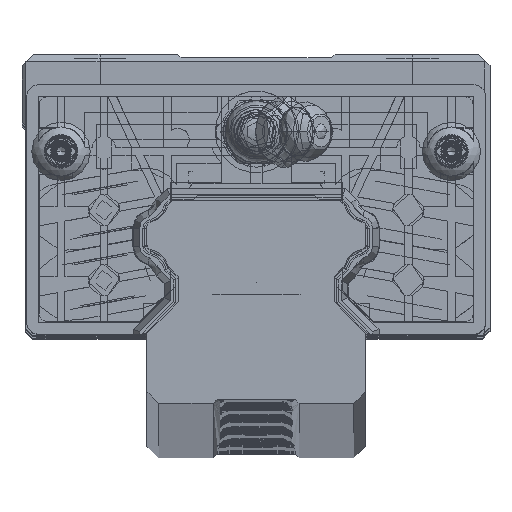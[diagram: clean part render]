
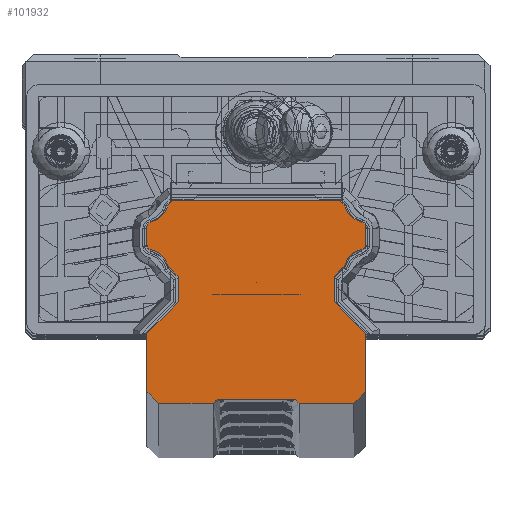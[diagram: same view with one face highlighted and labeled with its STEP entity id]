
A CAD part, top view. The second image highlights one B-rep face of the part: STEP entity #101932.
In plain terms, the highlighted planar face has unit normal (0, 0, 1).
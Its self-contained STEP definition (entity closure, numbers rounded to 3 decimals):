
#92562=DIRECTION('',(0.707,0.707,0.));
#92563=VECTOR('',#92562,0.707);
#92564=CARTESIAN_POINT('',(-5.5,-21.5,500.));
#92565=LINE('',#92564,#92563);
#92633=DIRECTION('',(-1.,0.,0.));
#92634=VECTOR('',#92633,21.4);
#92635=CARTESIAN_POINT('',(10.7,4.5,500.));
#92636=LINE('',#92635,#92634);
#93137=DIRECTION('',(-0.707,-0.707,0.));
#93138=VECTOR('',#93137,0.79);
#93139=CARTESIAN_POINT('',(-10.7,4.5,500.));
#93140=LINE('',#93139,#93138);
#93922=CARTESIAN_POINT('',(5.,-21.,500.));
#93924=DIRECTION('',(0.707,-0.707,0.));
#93925=VECTOR('',#93924,0.707);
#93926=CARTESIAN_POINT('',(5.,-21.,500.));
#93927=LINE('',#93926,#93925);
#95998=DIRECTION('',(1.,0.,0.));
#95999=VECTOR('',#95998,10.);
#96000=CARTESIAN_POINT('',(-5.,-21.,500.));
#96001=LINE('',#96000,#95999);
#96068=CARTESIAN_POINT('',(-14.086,-4.586,500.));
#96069=DIRECTION('',(0.,0.,1.));
#96070=DIRECTION('',(0.976,0.216,0.));
#96071=AXIS2_PLACEMENT_3D('',#96068,#96069,#96070);
#96073=CARTESIAN_POINT('',(-13.4,-1.154,500.));
#96074=DIRECTION('',(0.,0.,-1.));
#96075=DIRECTION('',(-0.196,-0.981,0.));
#96076=AXIS2_PLACEMENT_3D('',#96073,#96074,#96075);
#96078=DIRECTION('',(0.,1.,0.));
#96079=VECTOR('',#96078,2.308);
#96080=CARTESIAN_POINT('',(-14.,-1.154,500.));
#96081=LINE('',#96080,#96079);
#96082=CARTESIAN_POINT('',(-13.4,1.154,500.));
#96083=DIRECTION('',(0.,0.,-1.));
#96084=DIRECTION('',(-1.,0.,0.));
#96085=AXIS2_PLACEMENT_3D('',#96082,#96083,#96084);
#96087=CARTESIAN_POINT('',(-14.086,4.586,500.));
#96088=DIRECTION('',(0.,0.,1.));
#96089=DIRECTION('',(0.196,-0.981,0.));
#96090=AXIS2_PLACEMENT_3D('',#96087,#96088,#96089);
#96092=CARTESIAN_POINT('',(14.086,4.586,500.));
#96093=DIRECTION('',(0.,0.,1.));
#96094=DIRECTION('',(-0.975,-0.222,0.));
#96095=AXIS2_PLACEMENT_3D('',#96092,#96093,#96094);
#96097=CARTESIAN_POINT('',(13.4,1.154,500.));
#96098=DIRECTION('',(0.,0.,-1.));
#96099=DIRECTION('',(0.196,0.981,0.));
#96100=AXIS2_PLACEMENT_3D('',#96097,#96098,#96099);
#96102=DIRECTION('',(0.,-1.,0.));
#96103=VECTOR('',#96102,2.308);
#96104=CARTESIAN_POINT('',(14.,1.154,500.));
#96105=LINE('',#96104,#96103);
#96106=CARTESIAN_POINT('',(13.4,-1.154,500.));
#96107=DIRECTION('',(0.,0.,-1.));
#96108=DIRECTION('',(1.,0.,0.));
#96109=AXIS2_PLACEMENT_3D('',#96106,#96107,#96108);
#96111=CARTESIAN_POINT('',(14.086,-4.586,500.));
#96112=DIRECTION('',(0.,0.,1.));
#96113=DIRECTION('',(-0.196,0.981,0.));
#96114=AXIS2_PLACEMENT_3D('',#96111,#96112,#96113);
#96116=DIRECTION('',(-0.707,-0.707,0.));
#96117=VECTOR('',#96116,1.774);
#96118=CARTESIAN_POINT('',(11.254,-3.961,500.));
#96119=LINE('',#96118,#96117);
#96120=DIRECTION('',(0.,-1.,0.));
#96121=VECTOR('',#96120,3.285);
#96122=CARTESIAN_POINT('',(10.,-5.215,500.));
#96123=LINE('',#96122,#96121);
#96124=DIRECTION('',(0.707,-0.707,0.));
#96125=VECTOR('',#96124,5.657);
#96126=CARTESIAN_POINT('',(10.,-8.5,500.));
#96127=LINE('',#96126,#96125);
#96128=DIRECTION('',(0.,-1.,0.));
#96129=VECTOR('',#96128,7.5);
#96130=CARTESIAN_POINT('',(14.,-12.5,500.));
#96131=LINE('',#96130,#96129);
#96132=DIRECTION('',(-0.707,-0.707,0.));
#96133=VECTOR('',#96132,2.121);
#96134=CARTESIAN_POINT('',(14.,-20.,500.));
#96135=LINE('',#96134,#96133);
#96136=DIRECTION('',(-1.,0.,0.));
#96137=VECTOR('',#96136,7.);
#96138=CARTESIAN_POINT('',(12.5,-21.5,500.));
#96139=LINE('',#96138,#96137);
#96140=DIRECTION('',(-1.,0.,0.));
#96141=VECTOR('',#96140,7.);
#96142=CARTESIAN_POINT('',(-5.5,-21.5,500.));
#96143=LINE('',#96142,#96141);
#96144=DIRECTION('',(-0.707,0.707,0.));
#96145=VECTOR('',#96144,2.121);
#96146=CARTESIAN_POINT('',(-12.5,-21.5,500.));
#96147=LINE('',#96146,#96145);
#96148=DIRECTION('',(0.,1.,0.));
#96149=VECTOR('',#96148,7.5);
#96150=CARTESIAN_POINT('',(-14.,-20.,500.));
#96151=LINE('',#96150,#96149);
#96152=DIRECTION('',(0.707,0.707,0.));
#96153=VECTOR('',#96152,5.657);
#96154=CARTESIAN_POINT('',(-14.,-12.5,500.));
#96155=LINE('',#96154,#96153);
#96156=DIRECTION('',(0.,1.,0.));
#96157=VECTOR('',#96156,3.285);
#96158=CARTESIAN_POINT('',(-10.,-8.5,500.));
#96159=LINE('',#96158,#96157);
#96160=DIRECTION('',(-0.707,0.707,0.));
#96161=VECTOR('',#96160,1.774);
#96162=CARTESIAN_POINT('',(-10.,-5.215,500.));
#96163=LINE('',#96162,#96161);
#96164=DIRECTION('',(-0.707,0.707,0.));
#96165=VECTOR('',#96164,0.79);
#96166=CARTESIAN_POINT('',(11.259,3.941,500.));
#96167=LINE('',#96166,#96165);
#96532=CARTESIAN_POINT('',(-11.254,-3.961,500.));
#96534=VERTEX_POINT('',#96532);
#96538=CARTESIAN_POINT('',(-13.518,-1.742,500.));
#96539=VERTEX_POINT('',#96538);
#96541=CARTESIAN_POINT('',(-10.,-5.215,500.));
#96543=VERTEX_POINT('',#96541);
#96545=CARTESIAN_POINT('',(-10.,-8.5,500.));
#96547=VERTEX_POINT('',#96545);
#96549=CARTESIAN_POINT('',(-14.,-12.5,500.));
#96551=VERTEX_POINT('',#96549);
#96553=CARTESIAN_POINT('',(-14.,-20.,500.));
#96555=VERTEX_POINT('',#96553);
#96557=CARTESIAN_POINT('',(-12.5,-21.5,500.));
#96559=VERTEX_POINT('',#96557);
#96561=CARTESIAN_POINT('',(-5.5,-21.5,500.));
#96563=VERTEX_POINT('',#96561);
#96581=CARTESIAN_POINT('',(-5.,-21.,500.));
#96582=VERTEX_POINT('',#96581);
#96701=VERTEX_POINT('',#93922);
#96738=CARTESIAN_POINT('',(-10.7,4.5,500.));
#96740=VERTEX_POINT('',#96738);
#96744=CARTESIAN_POINT('',(10.7,4.5,500.));
#96745=VERTEX_POINT('',#96744);
#97047=CARTESIAN_POINT('',(-11.259,3.941,500.));
#97049=VERTEX_POINT('',#97047);
#97051=CARTESIAN_POINT('',(-13.518,1.742,500.));
#97053=VERTEX_POINT('',#97051);
#97054=CARTESIAN_POINT('',(-14.,1.154,500.));
#97056=VERTEX_POINT('',#97054);
#97059=CARTESIAN_POINT('',(-14.,-1.154,500.));
#97061=VERTEX_POINT('',#97059);
#97086=CARTESIAN_POINT('',(5.5,-21.5,500.));
#97087=VERTEX_POINT('',#97086);
#97088=CARTESIAN_POINT('',(11.259,3.941,500.));
#97089=VERTEX_POINT('',#97088);
#97090=CARTESIAN_POINT('',(13.518,1.742,500.));
#97091=VERTEX_POINT('',#97090);
#97092=CARTESIAN_POINT('',(14.,1.154,500.));
#97093=VERTEX_POINT('',#97092);
#97094=CARTESIAN_POINT('',(14.,-1.154,500.));
#97095=VERTEX_POINT('',#97094);
#97096=CARTESIAN_POINT('',(13.518,-1.742,500.));
#97097=VERTEX_POINT('',#97096);
#97098=CARTESIAN_POINT('',(11.254,-3.961,500.));
#97099=VERTEX_POINT('',#97098);
#97100=CARTESIAN_POINT('',(10.,-5.215,500.));
#97101=VERTEX_POINT('',#97100);
#97102=CARTESIAN_POINT('',(10.,-8.5,500.));
#97103=VERTEX_POINT('',#97102);
#97104=CARTESIAN_POINT('',(14.,-12.5,500.));
#97105=VERTEX_POINT('',#97104);
#97106=CARTESIAN_POINT('',(14.,-20.,500.));
#97107=VERTEX_POINT('',#97106);
#97108=CARTESIAN_POINT('',(12.5,-21.5,500.));
#97109=VERTEX_POINT('',#97108);
#101885=CARTESIAN_POINT('',(0.,0.,500.));
#101886=DIRECTION('',(0.,0.,1.));
#101887=DIRECTION('',(1.,0.,0.));
#101888=AXIS2_PLACEMENT_3D('',#101885,#101886,#101887);
#101889=PLANE('',#101888);
#101890=ORIENTED_EDGE('',*,*,#97409,.T.);
#101891=ORIENTED_EDGE('',*,*,#98075,.T.);
#101892=ORIENTED_EDGE('',*,*,#98061,.T.);
#101893=ORIENTED_EDGE('',*,*,#98046,.T.);
#101894=ORIENTED_EDGE('',*,*,#98031,.T.);
#101895=ORIENTED_EDGE('',*,*,#98016,.F.);
#101896=ORIENTED_EDGE('',*,*,#97703,.F.);
#101898=ORIENTED_EDGE('',*,*,#101897,.F.);
#101900=ORIENTED_EDGE('',*,*,#101899,.T.);
#101902=ORIENTED_EDGE('',*,*,#101901,.T.);
#101904=ORIENTED_EDGE('',*,*,#101903,.T.);
#101906=ORIENTED_EDGE('',*,*,#101905,.T.);
#101908=ORIENTED_EDGE('',*,*,#101907,.T.);
#101910=ORIENTED_EDGE('',*,*,#101909,.T.);
#101912=ORIENTED_EDGE('',*,*,#101911,.T.);
#101914=ORIENTED_EDGE('',*,*,#101913,.T.);
#101916=ORIENTED_EDGE('',*,*,#101915,.T.);
#101918=ORIENTED_EDGE('',*,*,#101917,.T.);
#101920=ORIENTED_EDGE('',*,*,#101919,.T.);
#101921=ORIENTED_EDGE('',*,*,#98979,.F.);
#101922=ORIENTED_EDGE('',*,*,#101804,.F.);
#101923=ORIENTED_EDGE('',*,*,#97532,.F.);
#101924=ORIENTED_EDGE('',*,*,#97499,.T.);
#101925=ORIENTED_EDGE('',*,*,#97484,.T.);
#101926=ORIENTED_EDGE('',*,*,#97469,.T.);
#101927=ORIENTED_EDGE('',*,*,#97454,.T.);
#101928=ORIENTED_EDGE('',*,*,#97439,.T.);
#101929=ORIENTED_EDGE('',*,*,#97424,.T.);
#101930=EDGE_LOOP('',(#101890,#101891,#101892,#101893,#101894,#101895,#101896,
#101898,#101900,#101902,#101904,#101906,#101908,#101910,#101912,#101914,#101916,
#101918,#101920,#101921,#101922,#101923,#101924,#101925,#101926,#101927,#101928,
#101929));
#101931=FACE_OUTER_BOUND('',#101930,.F.);
#101932=ADVANCED_FACE('',(#101931),#101889,.T.);
#96072=CIRCLE('',#96071,2.9);
#96077=CIRCLE('',#96076,0.6);
#96086=CIRCLE('',#96085,0.6);
#96091=CIRCLE('',#96090,2.9);
#96096=CIRCLE('',#96095,2.9);
#96101=CIRCLE('',#96100,0.6);
#96110=CIRCLE('',#96109,0.6);
#96115=CIRCLE('',#96114,2.9);
#97409=EDGE_CURVE('',#96534,#96539,#96072,.T.);
#97424=EDGE_CURVE('',#96543,#96534,#96163,.T.);
#97439=EDGE_CURVE('',#96547,#96543,#96159,.T.);
#97454=EDGE_CURVE('',#96551,#96547,#96155,.T.);
#97469=EDGE_CURVE('',#96555,#96551,#96151,.T.);
#97484=EDGE_CURVE('',#96559,#96555,#96147,.T.);
#97499=EDGE_CURVE('',#96563,#96559,#96143,.T.);
#97532=EDGE_CURVE('',#96563,#96582,#92565,.T.);
#97703=EDGE_CURVE('',#96745,#96740,#92636,.T.);
#98016=EDGE_CURVE('',#96740,#97049,#93140,.T.);
#98031=EDGE_CURVE('',#97053,#97049,#96091,.T.);
#98046=EDGE_CURVE('',#97056,#97053,#96086,.T.);
#98061=EDGE_CURVE('',#97061,#97056,#96081,.T.);
#98075=EDGE_CURVE('',#96539,#97061,#96077,.T.);
#98979=EDGE_CURVE('',#96701,#97087,#93927,.T.);
#101804=EDGE_CURVE('',#96582,#96701,#96001,.T.);
#101897=EDGE_CURVE('',#97089,#96745,#96167,.T.);
#101899=EDGE_CURVE('',#97089,#97091,#96096,.T.);
#101901=EDGE_CURVE('',#97091,#97093,#96101,.T.);
#101903=EDGE_CURVE('',#97093,#97095,#96105,.T.);
#101905=EDGE_CURVE('',#97095,#97097,#96110,.T.);
#101907=EDGE_CURVE('',#97097,#97099,#96115,.T.);
#101909=EDGE_CURVE('',#97099,#97101,#96119,.T.);
#101911=EDGE_CURVE('',#97101,#97103,#96123,.T.);
#101913=EDGE_CURVE('',#97103,#97105,#96127,.T.);
#101915=EDGE_CURVE('',#97105,#97107,#96131,.T.);
#101917=EDGE_CURVE('',#97107,#97109,#96135,.T.);
#101919=EDGE_CURVE('',#97109,#97087,#96139,.T.);
